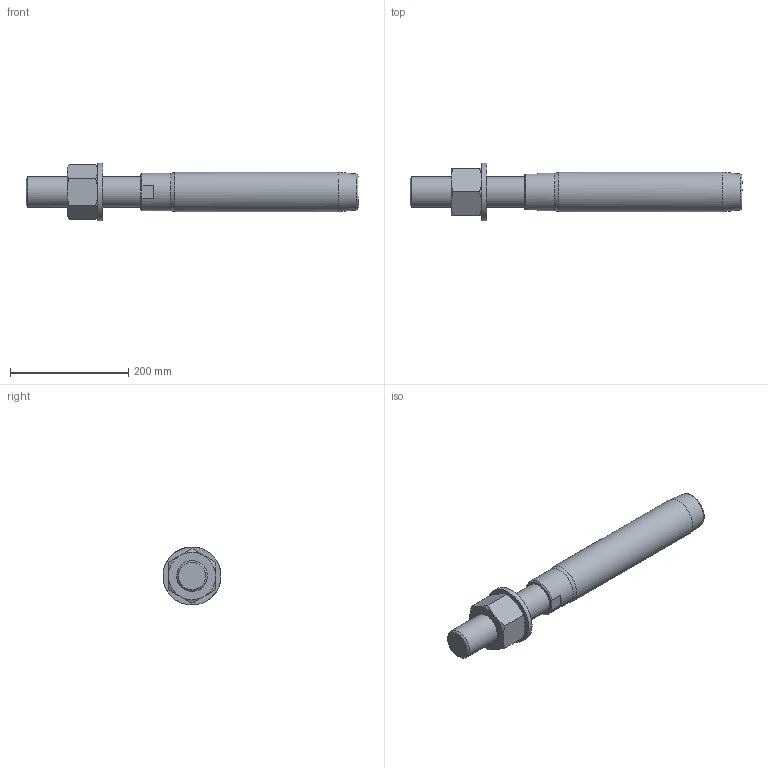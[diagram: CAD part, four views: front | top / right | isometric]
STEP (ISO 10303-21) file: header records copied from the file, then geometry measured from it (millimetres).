
FILE_DESCRIPTION(/* description */ (''),/* implementation_level */ '2;1');
FILE_NAME(/* name */ 'FLT 34_42CrMo4',/* time_stamp */ '2023-05-23T15:57:54+02:00',/* author */ (''),/* organization */ (''),/* preprocessor_version */ 'ST-DEVELOPER v16.5',/* originating_system */ 'Rhino 7.22',/* authorisation */ '');
FILE_SCHEMA (('CONFIG_CONTROL_DESIGN'));
Length unit declared in the file: millimetre
Products named in the file (1): Document
Bounding box: 561 x 98 x 97.83 mm (x, y, z)
Volume: 1897509 mm3; surface area: 156510.6 mm2
Topology: 3 solids, 3 shells, 42 faces, 103 edges, 68 vertices
Faces by surface type: bspline 19, plane 17, cylinder 6
Full cylindrical faces by diameter (mm): 48.752 x1, 52 x1, 54 x1, 63.5 x1, 66.8 x1, 98 x1
Entity records: 1563 total; most frequent: CARTESIAN_POINT 861, ORIENTED_EDGE 206, EDGE_CURVE 103, VERTEX_POINT 68, EDGE_LOOP 47, ADVANCED_FACE 42, FACE_OUTER_BOUND 42, DIRECTION 27
